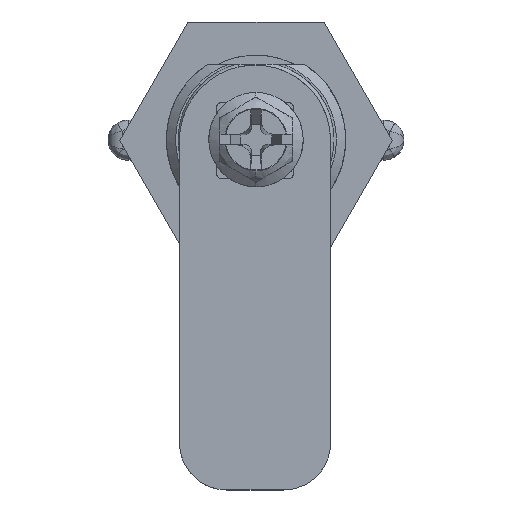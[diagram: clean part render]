
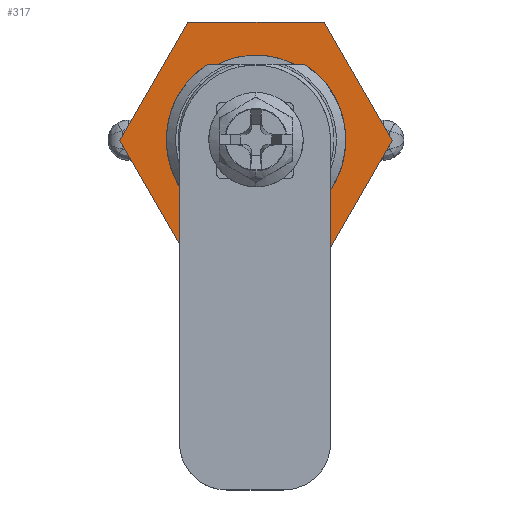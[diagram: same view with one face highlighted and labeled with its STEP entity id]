
A CAD part, top view. The second image highlights one B-rep face of the part: STEP entity #317.
In plain terms, the highlighted free-form (B-spline) face has degree [1, 1] with [2, 2] control points.
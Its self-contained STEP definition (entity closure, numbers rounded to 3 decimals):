
#317 = ADVANCED_FACE ( 'NONE', ( #17014, #12818 ), #1335, .T. ) ;
#441 = CARTESIAN_POINT ( 'NONE',  ( 15.011, 13., -19. ) ) ;
#1335 = B_SPLINE_SURFACE_WITH_KNOTS ( 'NONE', 1, 1, ( 
 ( #26926, #16855 ),
 ( #28962, #441 ) ),
 .UNSPECIFIED., .F., .F., .F.,
 ( 2, 2 ),
 ( 2, 2 ),
 ( -15.011, 15.011 ),
 ( -13., 13. ),
 .UNSPECIFIED. ) ;
#1402 = ORIENTED_EDGE ( 'NONE', *, *, #23722, .F. ) ;
#2217 = CARTESIAN_POINT ( 'NONE',  ( 9., 0., -19. ) ) ;
#2753 = CARTESIAN_POINT ( 'NONE',  ( 14.434, 0., -19. ) ) ;
#2768 = EDGE_CURVE ( 'NONE', #14187, #29671, #22020, .T. ) ;
#3862 =( BOUNDED_CURVE ( )  B_SPLINE_CURVE ( 3, ( #23506, #6749, #21328, #16213 ),
 .UNSPECIFIED., .F., .F. ) 
 B_SPLINE_CURVE_WITH_KNOTS ( ( 4, 4 ),
 ( 0., 3.142 ),
 .UNSPECIFIED. ) 
 CURVE ( )  GEOMETRIC_REPRESENTATION_ITEM ( )  RATIONAL_B_SPLINE_CURVE ( ( 1., 0.333, 0.333, 1. ) ) 
 REPRESENTATION_ITEM ( '' )  );
#4353 = ORIENTED_EDGE ( 'NONE', *, *, #6875, .F. ) ;
#5742 = CARTESIAN_POINT ( 'NONE',  ( 7.217, 12.5, -19. ) ) ;
#6749 = CARTESIAN_POINT ( 'NONE',  ( 9., 18., -19. ) ) ;
#6817 = CARTESIAN_POINT ( 'NONE',  ( -14.434, 0., -19. ) ) ;
#6867 = CARTESIAN_POINT ( 'NONE',  ( 9., 0., -19. ) ) ;
#6875 = EDGE_CURVE ( 'NONE', #24466, #14187, #10002, .T. ) ;
#8401 = ORIENTED_EDGE ( 'NONE', *, *, #24843, .F. ) ;
#9088 = ORIENTED_EDGE ( 'NONE', *, *, #20042, .F. ) ;
#9204 = ORIENTED_EDGE ( 'NONE', *, *, #10741, .F. ) ;
#10002 = B_SPLINE_CURVE_WITH_KNOTS ( 'NONE', 1,
 ( #2753, #11894 ),
 .UNSPECIFIED., .F., .F.,
 ( 2, 2 ),
 ( 0., 1. ),
 .UNSPECIFIED. ) ;
#10258 = EDGE_LOOP ( 'NONE', ( #8401, #23018 ) ) ;
#10741 = EDGE_CURVE ( 'NONE', #10885, #19030, #11283, .T. ) ;
#10885 = VERTEX_POINT ( 'NONE', #30370 ) ;
#11283 = B_SPLINE_CURVE_WITH_KNOTS ( 'NONE', 1,
 ( #6817, #23575 ),
 .UNSPECIFIED., .F., .F.,
 ( 2, 2 ),
 ( 0., 1. ),
 .UNSPECIFIED. ) ;
#11894 = CARTESIAN_POINT ( 'NONE',  ( 7.217, -12.5, -19. ) ) ;
#11973 = CARTESIAN_POINT ( 'NONE',  ( -9., -18., -19. ) ) ;
#12426 = CARTESIAN_POINT ( 'NONE',  ( 7.217, -12.5, -19. ) ) ;
#12818 = FACE_OUTER_BOUND ( 'NONE', #15266, .T. ) ;
#12991 = B_SPLINE_CURVE_WITH_KNOTS ( 'NONE', 1,
 ( #25368, #16059 ),
 .UNSPECIFIED., .F., .F.,
 ( 2, 2 ),
 ( 0., 1. ),
 .UNSPECIFIED. ) ;
#13827 = CARTESIAN_POINT ( 'NONE',  ( -7.217, -12.5, -19. ) ) ;
#13956 = CARTESIAN_POINT ( 'NONE',  ( -9., 0., -19. ) ) ;
#14187 = VERTEX_POINT ( 'NONE', #12426 ) ;
#14468 = VERTEX_POINT ( 'NONE', #6867 ) ;
#15266 = EDGE_LOOP ( 'NONE', ( #1402, #29961, #9204, #9088, #27021, #4353 ) ) ;
#15363 = CARTESIAN_POINT ( 'NONE',  ( 14.434, 0., -19. ) ) ;
#15936 = CARTESIAN_POINT ( 'NONE',  ( 7.217, 12.5, -19. ) ) ;
#16059 = CARTESIAN_POINT ( 'NONE',  ( -14.434, 0., -19. ) ) ;
#16191 = B_SPLINE_CURVE_WITH_KNOTS ( 'NONE', 1,
 ( #18402, #15936 ),
 .UNSPECIFIED., .F., .F.,
 ( 2, 2 ),
 ( 0., 1. ),
 .UNSPECIFIED. ) ;
#16213 = CARTESIAN_POINT ( 'NONE',  ( -9., 0., -19. ) ) ;
#16855 = CARTESIAN_POINT ( 'NONE',  ( -15.011, 13., -19. ) ) ;
#16919 = B_SPLINE_CURVE_WITH_KNOTS ( 'NONE', 1,
 ( #5742, #20019 ),
 .UNSPECIFIED., .F., .F.,
 ( 2, 2 ),
 ( 0., 1. ),
 .UNSPECIFIED. ) ;
#16996 =( BOUNDED_CURVE ( )  B_SPLINE_CURVE ( 3, ( #25773, #11973, #23456, #2217 ),
 .UNSPECIFIED., .F., .F. ) 
 B_SPLINE_CURVE_WITH_KNOTS ( ( 4, 4 ),
 ( 0., 3.142 ),
 .UNSPECIFIED. ) 
 CURVE ( )  GEOMETRIC_REPRESENTATION_ITEM ( )  RATIONAL_B_SPLINE_CURVE ( ( 1., 0.333, 0.333, 1. ) ) 
 REPRESENTATION_ITEM ( '' )  );
#17014 = FACE_BOUND ( 'NONE', #10258, .T. ) ;
#18402 = CARTESIAN_POINT ( 'NONE',  ( -7.217, 12.5, -19. ) ) ;
#18867 = VERTEX_POINT ( 'NONE', #13956 ) ;
#19030 = VERTEX_POINT ( 'NONE', #22319 ) ;
#19087 = EDGE_CURVE ( 'NONE', #19030, #21336, #16191, .T. ) ;
#20019 = CARTESIAN_POINT ( 'NONE',  ( 14.434, 0., -19. ) ) ;
#20042 = EDGE_CURVE ( 'NONE', #29671, #10885, #12991, .T. ) ;
#20311 = EDGE_CURVE ( 'NONE', #14468, #18867, #3862, .T. ) ;
#21226 = CARTESIAN_POINT ( 'NONE',  ( 7.217, 12.5, -19. ) ) ;
#21328 = CARTESIAN_POINT ( 'NONE',  ( -9., 18., -19. ) ) ;
#21336 = VERTEX_POINT ( 'NONE', #21226 ) ;
#22020 = B_SPLINE_CURVE_WITH_KNOTS ( 'NONE', 1,
 ( #29579, #29427 ),
 .UNSPECIFIED., .F., .F.,
 ( 2, 2 ),
 ( 0., 1. ),
 .UNSPECIFIED. ) ;
#22319 = CARTESIAN_POINT ( 'NONE',  ( -7.217, 12.5, -19. ) ) ;
#23018 = ORIENTED_EDGE ( 'NONE', *, *, #20311, .F. ) ;
#23456 = CARTESIAN_POINT ( 'NONE',  ( 9., -18., -19. ) ) ;
#23506 = CARTESIAN_POINT ( 'NONE',  ( 9., 0., -19. ) ) ;
#23575 = CARTESIAN_POINT ( 'NONE',  ( -7.217, 12.5, -19. ) ) ;
#23722 = EDGE_CURVE ( 'NONE', #21336, #24466, #16919, .T. ) ;
#24466 = VERTEX_POINT ( 'NONE', #15363 ) ;
#24843 = EDGE_CURVE ( 'NONE', #18867, #14468, #16996, .T. ) ;
#25368 = CARTESIAN_POINT ( 'NONE',  ( -7.217, -12.5, -19. ) ) ;
#25773 = CARTESIAN_POINT ( 'NONE',  ( -9., 0., -19. ) ) ;
#26926 = CARTESIAN_POINT ( 'NONE',  ( -15.011, -13., -19. ) ) ;
#27021 = ORIENTED_EDGE ( 'NONE', *, *, #2768, .F. ) ;
#28962 = CARTESIAN_POINT ( 'NONE',  ( 15.011, -13., -19. ) ) ;
#29427 = CARTESIAN_POINT ( 'NONE',  ( -7.217, -12.5, -19. ) ) ;
#29579 = CARTESIAN_POINT ( 'NONE',  ( 7.217, -12.5, -19. ) ) ;
#29671 = VERTEX_POINT ( 'NONE', #13827 ) ;
#29961 = ORIENTED_EDGE ( 'NONE', *, *, #19087, .F. ) ;
#30370 = CARTESIAN_POINT ( 'NONE',  ( -14.434, 0., -19. ) ) ;
